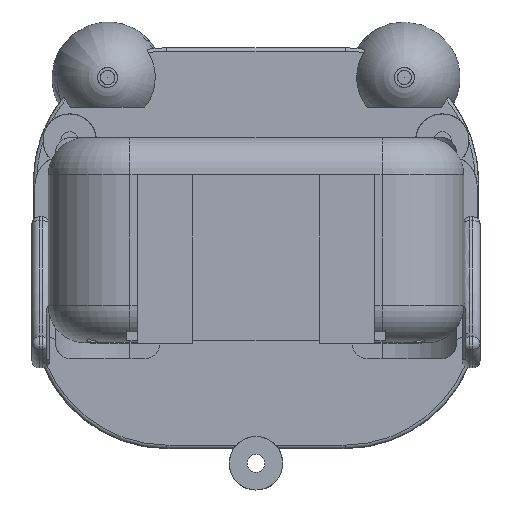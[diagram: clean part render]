
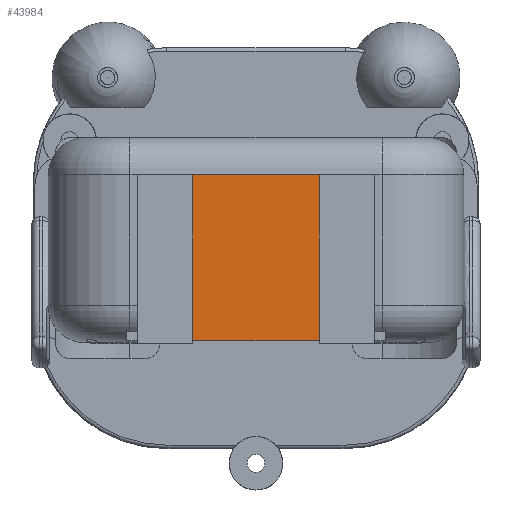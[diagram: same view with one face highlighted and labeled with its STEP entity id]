
A CAD part, top view. The second image highlights one B-rep face of the part: STEP entity #43984.
In plain terms, the highlighted planar face has unit normal (0, 0, 1).
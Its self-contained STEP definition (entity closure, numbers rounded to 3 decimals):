
#13863 = PLANE('',#13864);
#13864 = AXIS2_PLACEMENT_3D('',#13865,#13866,#13867);
#13865 = CARTESIAN_POINT('',(-29.8,-12.5,17.));
#13866 = DIRECTION('',(0.,1.,0.));
#13867 = DIRECTION('',(1.,0.,0.));
#40728 = VERTEX_POINT('',#40729);
#40729 = CARTESIAN_POINT('',(-13.,-12.5,18.4));
#40750 = EDGE_CURVE('',#40728,#40751,#40753,.T.);
#40751 = VERTEX_POINT('',#40752);
#40752 = CARTESIAN_POINT('',(13.,-12.5,18.4));
#40753 = SURFACE_CURVE('',#40754,(#40758,#40765),.PCURVE_S1.);
#40754 = LINE('',#40755,#40756);
#40755 = CARTESIAN_POINT('',(-29.8,-12.5,18.4));
#40756 = VECTOR('',#40757,1.);
#40757 = DIRECTION('',(1.,0.,0.));
#40758 = PCURVE('',#13863,#40759);
#40759 = DEFINITIONAL_REPRESENTATION('',(#40760),#40764);
#40760 = LINE('',#40761,#40762);
#40761 = CARTESIAN_POINT('',(0.,-1.4));
#40762 = VECTOR('',#40763,1.);
#40763 = DIRECTION('',(1.,0.));
#40764 = ( GEOMETRIC_REPRESENTATION_CONTEXT(2) 
PARAMETRIC_REPRESENTATION_CONTEXT() REPRESENTATION_CONTEXT('2D SPACE',''
  ) );
#40765 = PCURVE('',#40766,#40771);
#40766 = PLANE('',#40767);
#40767 = AXIS2_PLACEMENT_3D('',#40768,#40769,#40770);
#40768 = CARTESIAN_POINT('',(-25.115,14.5,18.4));
#40769 = DIRECTION('',(0.,0.,1.));
#40770 = DIRECTION('',(1.,0.,-0.));
#40771 = DEFINITIONAL_REPRESENTATION('',(#40772),#40776);
#40772 = LINE('',#40773,#40774);
#40773 = CARTESIAN_POINT('',(-4.685,-27.));
#40774 = VECTOR('',#40775,1.);
#40775 = DIRECTION('',(1.,0.));
#40776 = ( GEOMETRIC_REPRESENTATION_CONTEXT(2) 
PARAMETRIC_REPRESENTATION_CONTEXT() REPRESENTATION_CONTEXT('2D SPACE',''
  ) );
#40936 = PLANE('',#40937);
#40937 = AXIS2_PLACEMENT_3D('',#40938,#40939,#40940);
#40938 = CARTESIAN_POINT('',(-13.,-14.9,18.4));
#40939 = DIRECTION('',(1.,0.,0.));
#40940 = DIRECTION('',(0.,0.,1.));
#41174 = PLANE('',#41175);
#41175 = AXIS2_PLACEMENT_3D('',#41176,#41177,#41178);
#41176 = CARTESIAN_POINT('',(13.,-14.9,18.4));
#41177 = DIRECTION('',(1.,0.,0.));
#41178 = DIRECTION('',(0.,0.,1.));
#43298 = PLANE('',#43299);
#43299 = AXIS2_PLACEMENT_3D('',#43300,#43301,#43302);
#43300 = CARTESIAN_POINT('',(29.8,12.5,17.));
#43301 = DIRECTION('',(0.,-1.,0.));
#43302 = DIRECTION('',(-1.,0.,0.));
#43984 = ADVANCED_FACE('',(#43985),#40766,.T.);
#43985 = FACE_BOUND('',#43986,.T.);
#43986 = EDGE_LOOP('',(#43987,#44010,#44033,#44054));
#43987 = ORIENTED_EDGE('',*,*,#43988,.T.);
#43988 = EDGE_CURVE('',#40751,#43989,#43991,.T.);
#43989 = VERTEX_POINT('',#43990);
#43990 = CARTESIAN_POINT('',(13.,12.5,18.4));
#43991 = SURFACE_CURVE('',#43992,(#43996,#44003),.PCURVE_S1.);
#43992 = LINE('',#43993,#43994);
#43993 = CARTESIAN_POINT('',(13.,-14.9,18.4));
#43994 = VECTOR('',#43995,1.);
#43995 = DIRECTION('',(0.,1.,0.));
#43996 = PCURVE('',#40766,#43997);
#43997 = DEFINITIONAL_REPRESENTATION('',(#43998),#44002);
#43998 = LINE('',#43999,#44000);
#43999 = CARTESIAN_POINT('',(38.115,-29.4));
#44000 = VECTOR('',#44001,1.);
#44001 = DIRECTION('',(0.,1.));
#44002 = ( GEOMETRIC_REPRESENTATION_CONTEXT(2) 
PARAMETRIC_REPRESENTATION_CONTEXT() REPRESENTATION_CONTEXT('2D SPACE',''
  ) );
#44003 = PCURVE('',#41174,#44004);
#44004 = DEFINITIONAL_REPRESENTATION('',(#44005),#44009);
#44005 = LINE('',#44006,#44007);
#44006 = CARTESIAN_POINT('',(0.,0.));
#44007 = VECTOR('',#44008,1.);
#44008 = DIRECTION('',(0.,-1.));
#44009 = ( GEOMETRIC_REPRESENTATION_CONTEXT(2) 
PARAMETRIC_REPRESENTATION_CONTEXT() REPRESENTATION_CONTEXT('2D SPACE',''
  ) );
#44010 = ORIENTED_EDGE('',*,*,#44011,.T.);
#44011 = EDGE_CURVE('',#43989,#44012,#44014,.T.);
#44012 = VERTEX_POINT('',#44013);
#44013 = CARTESIAN_POINT('',(-13.,12.5,18.4));
#44014 = SURFACE_CURVE('',#44015,(#44019,#44026),.PCURVE_S1.);
#44015 = LINE('',#44016,#44017);
#44016 = CARTESIAN_POINT('',(29.8,12.5,18.4));
#44017 = VECTOR('',#44018,1.);
#44018 = DIRECTION('',(-1.,0.,0.));
#44019 = PCURVE('',#40766,#44020);
#44020 = DEFINITIONAL_REPRESENTATION('',(#44021),#44025);
#44021 = LINE('',#44022,#44023);
#44022 = CARTESIAN_POINT('',(54.915,-2.));
#44023 = VECTOR('',#44024,1.);
#44024 = DIRECTION('',(-1.,0.));
#44025 = ( GEOMETRIC_REPRESENTATION_CONTEXT(2) 
PARAMETRIC_REPRESENTATION_CONTEXT() REPRESENTATION_CONTEXT('2D SPACE',''
  ) );
#44026 = PCURVE('',#43298,#44027);
#44027 = DEFINITIONAL_REPRESENTATION('',(#44028),#44032);
#44028 = LINE('',#44029,#44030);
#44029 = CARTESIAN_POINT('',(0.,-1.4));
#44030 = VECTOR('',#44031,1.);
#44031 = DIRECTION('',(1.,0.));
#44032 = ( GEOMETRIC_REPRESENTATION_CONTEXT(2) 
PARAMETRIC_REPRESENTATION_CONTEXT() REPRESENTATION_CONTEXT('2D SPACE',''
  ) );
#44033 = ORIENTED_EDGE('',*,*,#44034,.F.);
#44034 = EDGE_CURVE('',#40728,#44012,#44035,.T.);
#44035 = SURFACE_CURVE('',#44036,(#44040,#44047),.PCURVE_S1.);
#44036 = LINE('',#44037,#44038);
#44037 = CARTESIAN_POINT('',(-13.,-14.9,18.4));
#44038 = VECTOR('',#44039,1.);
#44039 = DIRECTION('',(0.,1.,0.));
#44040 = PCURVE('',#40766,#44041);
#44041 = DEFINITIONAL_REPRESENTATION('',(#44042),#44046);
#44042 = LINE('',#44043,#44044);
#44043 = CARTESIAN_POINT('',(12.115,-29.4));
#44044 = VECTOR('',#44045,1.);
#44045 = DIRECTION('',(0.,1.));
#44046 = ( GEOMETRIC_REPRESENTATION_CONTEXT(2) 
PARAMETRIC_REPRESENTATION_CONTEXT() REPRESENTATION_CONTEXT('2D SPACE',''
  ) );
#44047 = PCURVE('',#40936,#44048);
#44048 = DEFINITIONAL_REPRESENTATION('',(#44049),#44053);
#44049 = LINE('',#44050,#44051);
#44050 = CARTESIAN_POINT('',(0.,0.));
#44051 = VECTOR('',#44052,1.);
#44052 = DIRECTION('',(0.,-1.));
#44053 = ( GEOMETRIC_REPRESENTATION_CONTEXT(2) 
PARAMETRIC_REPRESENTATION_CONTEXT() REPRESENTATION_CONTEXT('2D SPACE',''
  ) );
#44054 = ORIENTED_EDGE('',*,*,#40750,.T.);
